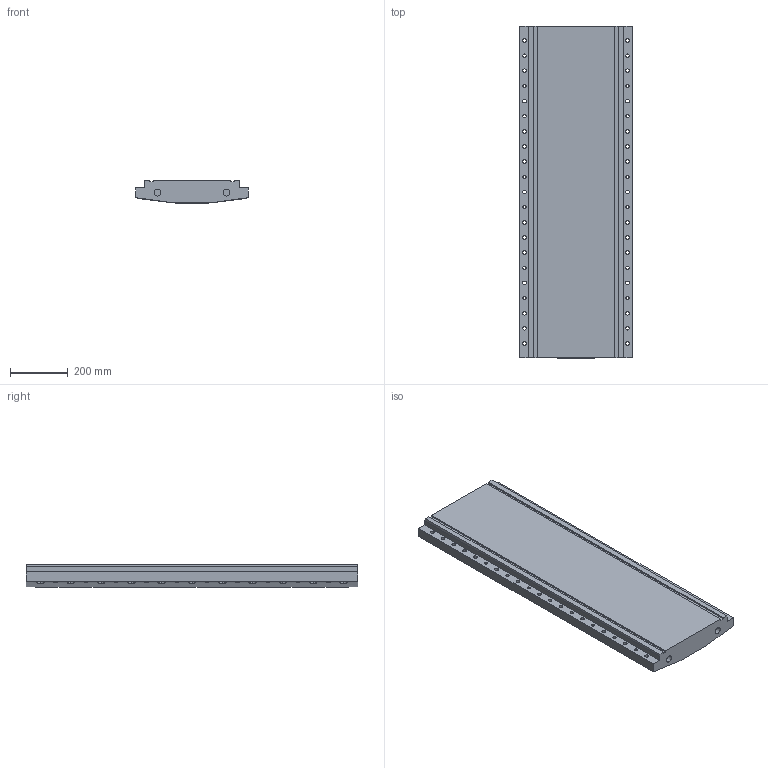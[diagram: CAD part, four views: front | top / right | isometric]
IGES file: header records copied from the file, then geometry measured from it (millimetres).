
Start section:  PTC IGES file: sst_ocs_af0.igs
Global section: file name: sst_ocs_af0.igs; native system: Pro/ENGINEER by Parametric Technology Corporation; preprocessor: 1999260; author: oshatz; organization: Unknown; date: 000922.101628; units: millimetre
Bounding box: 390.89 x 1149 x 79.5 mm (x, y, z)
Surface area: 1191269.1 mm2 (no closed solid volume)
Topology: 0 solids, 0 shells, 179 faces, 912 edges, 912 vertices
Faces by surface type: revolution 135, bspline 44
